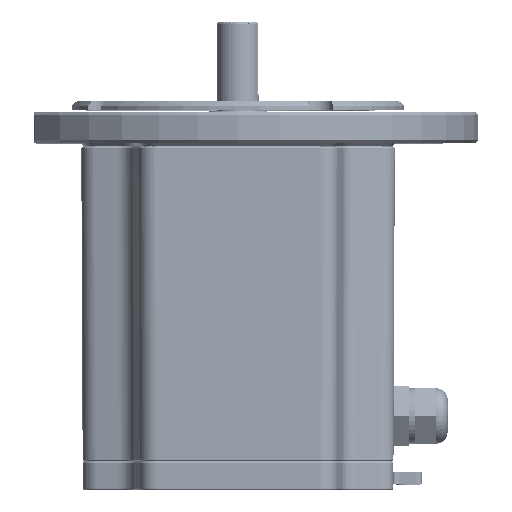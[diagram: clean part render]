
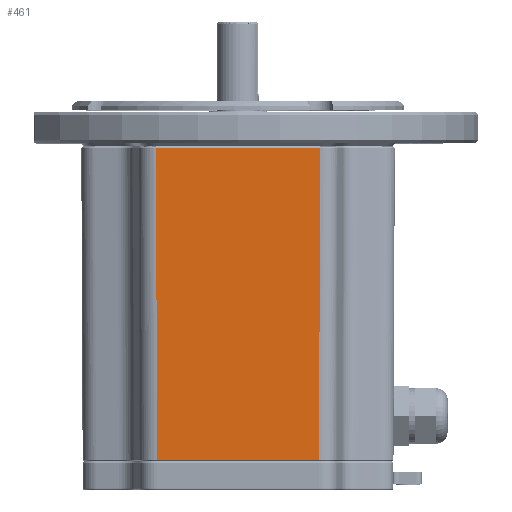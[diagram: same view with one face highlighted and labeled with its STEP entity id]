
A CAD part, left-side view. The second image highlights one B-rep face of the part: STEP entity #461.
In plain terms, the highlighted planar face has unit normal (-1, 0, -0.004).
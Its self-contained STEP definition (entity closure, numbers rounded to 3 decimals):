
#461 = ADVANCED_FACE ( 'NONE', ( #4841 ), #76768, .T. ) ;
#717 = CARTESIAN_POINT ( 'NONE',  ( -51.808, -27.002, -56.896 ) ) ;
#3112 = VERTEX_POINT ( 'NONE', #177293 ) ;
#4841 = FACE_OUTER_BOUND ( 'NONE', #97119, .T. ) ;
#14374 = EDGE_CURVE ( 'NONE', #25910, #167439, #80910, .T. ) ;
#14770 = LINE ( 'NONE', #29111, #35401 ) ;
#16076 = CARTESIAN_POINT ( 'NONE',  ( -51.808, -20.326, -56.896 ) ) ;
#19197 = CARTESIAN_POINT ( 'NONE',  ( -52.234, -27.102, 40.799 ) ) ;
#19369 = LINE ( 'NONE', #172322, #100247 ) ;
#25910 = VERTEX_POINT ( 'NONE', #82816 ) ;
#25988 = ORIENTED_EDGE ( 'NONE', *, *, #94719, .F. ) ;
#26284 = B_SPLINE_CURVE_WITH_KNOTS ( 'NONE', 3,
 ( #52692, #76170, #133686, #158908 ),
 .UNSPECIFIED., .F., .F.,
 ( 4, 4 ),
 ( 0., 1. ),
 .UNSPECIFIED. ) ;
#29111 = CARTESIAN_POINT ( 'NONE',  ( -52.234, 27.336, 40.706 ) ) ;
#35401 = VECTOR ( 'NONE', #84050, 1000. ) ;
#41159 = CARTESIAN_POINT ( 'NONE',  ( -51.808, -27.001, -56.896 ) ) ;
#43488 = EDGE_CURVE ( 'NONE', #167439, #169018, #26284, .T. ) ;
#44321 = LINE ( 'NONE', #152306, #71043 ) ;
#45478 = DIRECTION ( 'NONE',  ( 0.004, 0.003, -1. ) ) ;
#51126 = ORIENTED_EDGE ( 'NONE', *, *, #65289, .F. ) ;
#52692 = CARTESIAN_POINT ( 'NONE',  ( -51.808, 26.999, -56.896 ) ) ;
#54788 = DIRECTION ( 'NONE',  ( 0., 1., 0. ) ) ;
#55111 = ORIENTED_EDGE ( 'NONE', *, *, #14374, .F. ) ;
#55218 = EDGE_CURVE ( 'NONE', #84180, #3112, #44321, .T. ) ;
#60347 = B_SPLINE_CURVE_WITH_KNOTS ( 'NONE', 3,
 ( #95212, #150044, #41159, #717 ),
 .UNSPECIFIED., .F., .F.,
 ( 4, 4 ),
 ( 0., 1. ),
 .UNSPECIFIED. ) ;
#65289 = EDGE_CURVE ( 'NONE', #3112, #73258, #19369, .T. ) ;
#67338 = ORIENTED_EDGE ( 'NONE', *, *, #55218, .F. ) ;
#71043 = VECTOR ( 'NONE', #154068, 1000. ) ;
#73258 = VERTEX_POINT ( 'NONE', #155640 ) ;
#75946 = ORIENTED_EDGE ( 'NONE', *, *, #165365, .T. ) ;
#76170 = CARTESIAN_POINT ( 'NONE',  ( -51.808, 27., -56.896 ) ) ;
#76768 = PLANE ( 'NONE',  #91125 ) ;
#80910 = LINE ( 'NONE', #16076, #154305 ) ;
#82816 = CARTESIAN_POINT ( 'NONE',  ( -51.808, -26.999, -56.896 ) ) ;
#84050 = DIRECTION ( 'NONE',  ( -0.004, 0.003, 1. ) ) ;
#84180 = VERTEX_POINT ( 'NONE', #85315 ) ;
#85315 = CARTESIAN_POINT ( 'NONE',  ( -52.262, 27.358, 47.1 ) ) ;
#91125 = AXIS2_PLACEMENT_3D ( 'NONE', #19197, #128946, #103772 ) ;
#94719 = EDGE_CURVE ( 'NONE', #169018, #84180, #14770, .T. ) ;
#95212 = CARTESIAN_POINT ( 'NONE',  ( -51.808, -26.999, -56.896 ) ) ;
#97119 = EDGE_LOOP ( 'NONE', ( #67338, #25988, #100868, #55111, #75946, #51126 ) ) ;
#98539 = CARTESIAN_POINT ( 'NONE',  ( -51.808, 27.002, -56.896 ) ) ;
#100247 = VECTOR ( 'NONE', #45478, 1000. ) ;
#100868 = ORIENTED_EDGE ( 'NONE', *, *, #43488, .F. ) ;
#103772 = DIRECTION ( 'NONE',  ( -0.004, 0., 1. ) ) ;
#128946 = DIRECTION ( 'NONE',  ( -1., 0., -0.004 ) ) ;
#133686 = CARTESIAN_POINT ( 'NONE',  ( -51.808, 27.001, -56.896 ) ) ;
#150044 = CARTESIAN_POINT ( 'NONE',  ( -51.808, -27., -56.896 ) ) ;
#152306 = CARTESIAN_POINT ( 'NONE',  ( -52.262, -21.927, 47.1 ) ) ;
#154068 = DIRECTION ( 'NONE',  ( 0., -1., 0. ) ) ;
#154305 = VECTOR ( 'NONE', #54788, 1000. ) ;
#155640 = CARTESIAN_POINT ( 'NONE',  ( -51.808, -27.002, -56.896 ) ) ;
#158908 = CARTESIAN_POINT ( 'NONE',  ( -51.808, 27.002, -56.896 ) ) ;
#165112 = CARTESIAN_POINT ( 'NONE',  ( -51.808, 26.999, -56.896 ) ) ;
#165365 = EDGE_CURVE ( 'NONE', #25910, #73258, #60347, .T. ) ;
#167439 = VERTEX_POINT ( 'NONE', #165112 ) ;
#169018 = VERTEX_POINT ( 'NONE', #98539 ) ;
#172322 = CARTESIAN_POINT ( 'NONE',  ( -52.234, -27.336, 40.785 ) ) ;
#177293 = CARTESIAN_POINT ( 'NONE',  ( -52.262, -27.358, 47.1 ) ) ;
